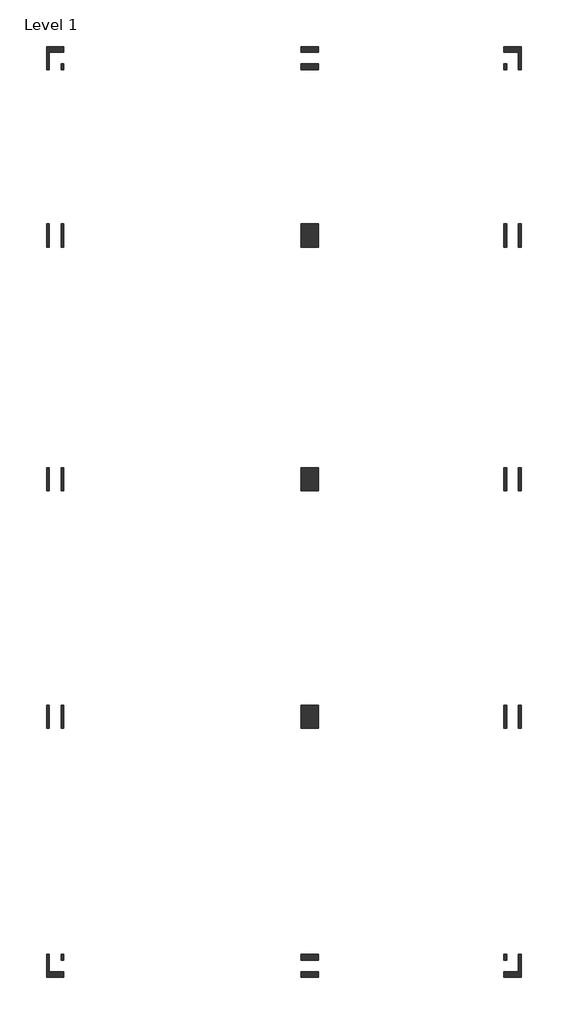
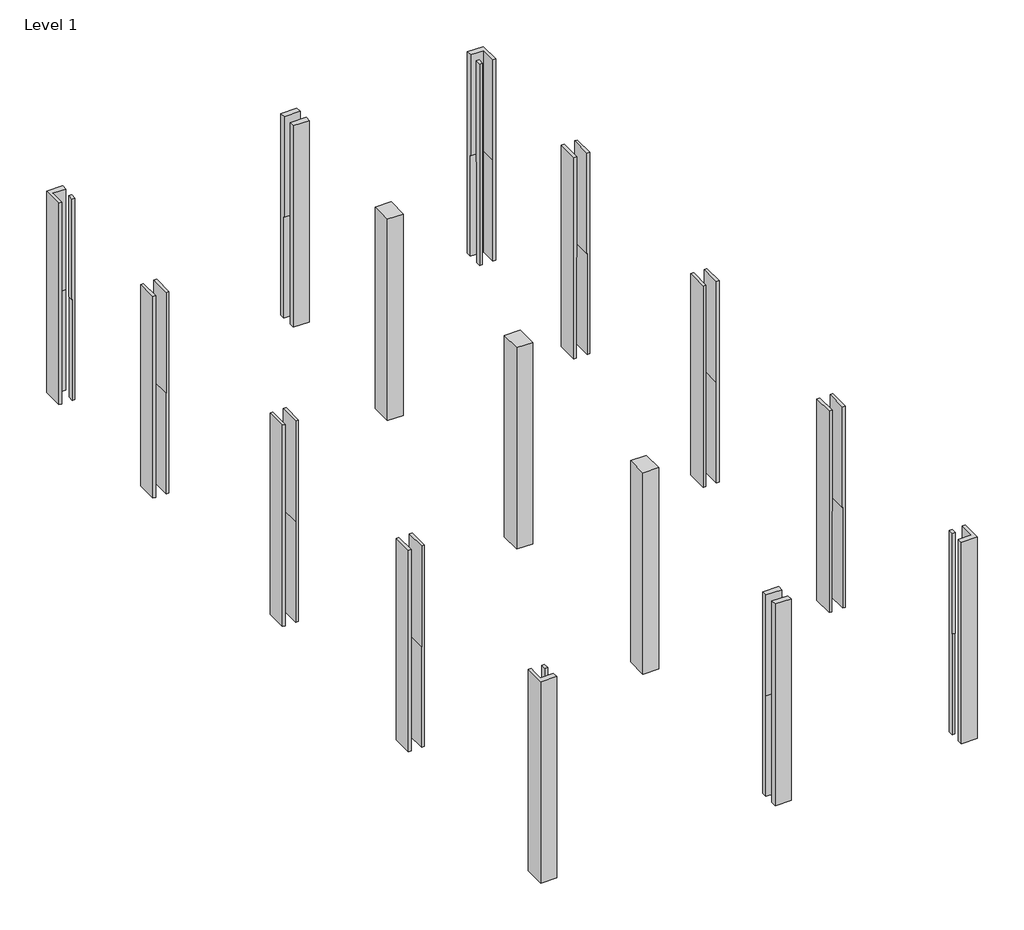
# One storey: 15 columns.
"""IFC4 building model written with IfcOpenShell, lengths in millimetres."""

import ifcopenshell
import ifcopenshell.guid

model = None  # the IFC model being written
_history = None  # IfcOwnerHistory: only IFC2X3 demands one
_inside = {}  # id of a spatial element -> (the spatial element, [elements in it])
_under = {}  # id of a project, library or spatial element -> (it, [spatial elements below it])
_declared = {}  # id of a project -> (the project, [libraries it declares])
_typed = {}  # id of a type object -> (the type object, [elements of that type])
_made_of = {}  # id of a material, layer set ... -> (it, [elements and type objects made of it])


def new_model(schema):
    """Start an empty IFC model of exactly this schema.

    Asked for "IFC4X3", IfcOpenShell would pick the latest addendum, in which some entities
    have other attributes; the version numbers below select the first issue.
    IFC2X3 requires an IfcOwnerHistory on every rooted entity: one is made here for all.
    """
    global model, _history
    if schema == "IFC4X3":
        model = ifcopenshell.file(schema_version=(4, 3, 0, 0))
    else:
        model = ifcopenshell.file(schema=schema)
    _inside.clear()
    _under.clear()
    _declared.clear()
    _typed.clear()
    _made_of.clear()
    _history = None
    if model.schema == "IFC2X3":
        org = make("IfcOrganization", Name="unknown")
        user = make(
            "IfcPersonAndOrganization",
            ThePerson=make("IfcPerson", FamilyName="unknown"),
            TheOrganization=org,
        )
        app = make(
            "IfcApplication",
            ApplicationDeveloper=org,
            Version="unknown",
            ApplicationFullName="unknown",
            ApplicationIdentifier="unknown",
        )
        _history = make(
            "IfcOwnerHistory",
            OwningUser=user,
            OwningApplication=app,
            ChangeAction="ADDED",
            CreationDate=0,
        )
    return model


def make(cls, **values):
    """One entity of the class cls with the attributes given. An attribute that is None is left unset."""
    return model.create_entity(
        cls, **{name: value for name, value in values.items() if value is not None}
    )


def rooted(cls, **values):
    """An entity with a GlobalId (a new one), such as an element, a storey or a relation."""
    return make(cls, GlobalId=ifcopenshell.guid.new(), OwnerHistory=_history, **values)


def si_unit(unit_type, name, prefix=None):
    """IfcSIUnit, for example si_unit("LENGTHUNIT", "METRE", prefix="MILLI")."""
    return make("IfcSIUnit", UnitType=unit_type, Prefix=prefix, Name=name)


def assignment(units):
    """IfcUnitAssignment: the units of a project."""
    return None if units is None else make("IfcUnitAssignment", Units=units)


def point(xyz):
    """IfcCartesianPoint."""
    return None if xyz is None else make("IfcCartesianPoint", Coordinates=xyz)


def direction(xyz):
    """IfcDirection."""
    return None if xyz is None else make("IfcDirection", DirectionRatios=xyz)


def frame(location, z_axis=None, x_axis=None):
    """IfcAxis2Placement3D, a coordinate frame: its origin and axes. An axis left out is left unset."""
    return make(
        "IfcAxis2Placement3D",
        Location=point(location),
        Axis=direction(z_axis),
        RefDirection=direction(x_axis),
    )


def origin():
    """The frame at (0, 0, 0) with its axes left unset."""
    return frame((0.0, 0.0, 0.0))


def origin_with_axes():
    """The frame at (0, 0, 0) with the z axis (0, 0, 1) and the x axis (1, 0, 0) written out."""
    return frame((0.0, 0.0, 0.0), z_axis=(0.0, 0.0, 1.0), x_axis=(1.0, 0.0, 0.0))


def place(relative_to, where):
    """IfcLocalPlacement: puts the frame where relative to a parent placement (None: the world)."""
    return make(
        "IfcLocalPlacement", PlacementRelTo=relative_to, RelativePlacement=where
    )


def context(
    kind, dimensions, precision=None, world=None, true_north=None, identifier=None
):
    """IfcGeometricRepresentationContext, for example the 3D "Model" context."""
    return make(
        "IfcGeometricRepresentationContext",
        ContextIdentifier=identifier,
        ContextType=kind,
        CoordinateSpaceDimension=dimensions,
        Precision=precision,
        WorldCoordinateSystem=world,
        TrueNorth=true_north,
    )


def project(units=None, contexts=None):
    """IfcProject with its units and contexts."""
    return rooted(
        "IfcProject",
        Name="project",
        RepresentationContexts=contexts,
        UnitsInContext=assignment(units),
    )


def spatial(cls, under=None, at=None, **own):
    """A site, building, storey or space (cls), placed at a placement, below another one or the project."""
    s = rooted(cls, ObjectPlacement=at, **own)
    if under is not None:
        _under.setdefault(under.id(), (under, []))[1].append(s)
    return s


def polyline(points):
    """IfcPolyline through the points."""
    return make("IfcPolyline", Points=[point(p) for p in points])


def outline(outer, holes=None, kind="AREA"):
    """IfcArbitraryClosedProfileDef: a profile drawn as a closed curve; with holes, ...WithVoids."""
    if holes is None:
        return make("IfcArbitraryClosedProfileDef", ProfileType=kind, OuterCurve=outer)
    return make(
        "IfcArbitraryProfileDefWithVoids",
        ProfileType=kind,
        OuterCurve=outer,
        InnerCurves=holes,
    )


def extrude(swept, where, along, depth):
    """IfcExtrudedAreaSolid: the profile swept, set in the frame where, extruded along a direction by depth."""
    return make(
        "IfcExtrudedAreaSolid",
        SweptArea=swept,
        Position=where,
        ExtrudedDirection=direction(along),
        Depth=depth,
    )


def faces_of(points, faces, orient=None, outer=None):
    """IfcFace entities. A face is a list of loops; a loop is a list of indices into points, from 0.

    orient and outer hold one flag for each loop. By default every Orientation is true, the
    first loop of a face is its IfcFaceOuterBound and the others are IfcFaceBound.
    """
    made = []
    for i, loops in enumerate(faces):
        bounds = []
        for j, loop in enumerate(loops):
            is_outer = j == 0 if outer is None else outer[i][j]
            bounds.append(
                make(
                    "IfcFaceOuterBound" if is_outer else "IfcFaceBound",
                    Bound=make("IfcPolyLoop", Polygon=[points[k] for k in loop]),
                    Orientation=True if orient is None else orient[i][j],
                )
            )
        made.append(make("IfcFace", Bounds=bounds))
    return made


def faceted_brep(points, faces, orient=None, outer=None, voids=None):
    """IfcFacetedBrep: a solid bounded by flat faces; with voids (closed shells), ...WithVoids."""
    shared = [point(p) for p in points]
    hull = make("IfcClosedShell", CfsFaces=faces_of(shared, faces, orient, outer))
    if voids is None:
        return make("IfcFacetedBrep", Outer=hull)
    return make(
        "IfcFacetedBrepWithVoids",
        Outer=hull,
        Voids=[
            make(cls, CfsFaces=faces_of(shared, fs, o, b)) for cls, fs, o, b in voids
        ],
    )


def shape(context_of_items, identifier, shape_type, items):
    """IfcShapeRepresentation: the items that make up one representation, for example the "Body"."""
    return make(
        "IfcShapeRepresentation",
        ContextOfItems=context_of_items,
        RepresentationIdentifier=identifier,
        RepresentationType=shape_type,
        Items=items,
    )


def source(mapping_origin, context_of_items, identifier, shape_type, items):
    """IfcRepresentationMap: a shape defined once, which mapped items show again and again."""
    return make(
        "IfcRepresentationMap",
        MappingOrigin=mapping_origin,
        MappedRepresentation=shape(context_of_items, identifier, shape_type, items),
    )


def transform(
    local_origin,
    x_axis=None,
    y_axis=None,
    z_axis=None,
    scale=None,
    scale2=None,
    scale3=None,
    uniform=True,
):
    """IfcCartesianTransformationOperator3D, or its non-uniform kind. x_axis, y_axis, z_axis: its Axis1, 2, 3."""
    if uniform:
        return make(
            "IfcCartesianTransformationOperator3D",
            Axis1=direction(x_axis),
            Axis2=direction(y_axis),
            LocalOrigin=point(local_origin),
            Scale=scale,
            Axis3=direction(z_axis),
        )
    return make(
        "IfcCartesianTransformationOperator3DnonUniform",
        Axis1=direction(x_axis),
        Axis2=direction(y_axis),
        LocalOrigin=point(local_origin),
        Scale=scale,
        Axis3=direction(z_axis),
        Scale2=scale2,
        Scale3=scale3,
    )


def mapped(mapping_source, mapping_target):
    """IfcMappedItem: shows the shape of a source again, moved by a transform."""
    return make(
        "IfcMappedItem", MappingSource=mapping_source, MappingTarget=mapping_target
    )


def made_of(thing, what):
    """Note that an element or type object is made of a material, layer set ...; save() writes the relation."""
    if what is not None:
        _made_of.setdefault(what.id(), (what, []))[1].append(thing)
    return thing


def element(
    cls,
    number,
    at=None,
    inside=None,
    cuts=None,
    type_object=None,
    material=None,
    context=None,
    identifier="Body",
    shape_type=None,
    held_by="IfcProductDefinitionShape",
    body=None,
    shapes=None,
    **own,
):
    """One element of the class cls, such as IfcWall. Its Tag is "e" and its number.

    at: its placement. inside: the storey or other place that contains it. cuts: it is an
    opening in that element (IfcRelVoidsElement). A single representation is given by context,
    identifier, shape_type and body (its items); several are given by shapes. held_by: the class
    of the entity that holds the representations. save() writes the other relations.
    """
    e = rooted(cls, Tag="e%d" % number, ObjectPlacement=at, **own)
    if body is not None:
        shapes = [shape(context, identifier, shape_type, body)]
    if shapes is not None:
        e.Representation = make(held_by, Representations=shapes)
    if inside is not None:
        _inside.setdefault(inside.id(), (inside, []))[1].append(e)
    if cuts is not None:
        rooted(
            "IfcRelVoidsElement", RelatingBuildingElement=cuts, RelatedOpeningElement=e
        )
    if type_object is not None:
        _typed.setdefault(type_object.id(), (type_object, []))[1].append(e)
    return made_of(e, material)


def aggregate(whole, parts):
    """IfcRelAggregates: a whole, such as a stair, and the parts it consists of."""
    return rooted("IfcRelAggregates", RelatingObject=whole, RelatedObjects=parts)


def save(model, path):
    """Write the relations noted so far, then the file.

    IfcRelAggregates (storeys below a building ...), IfcRelContainedInSpatialStructure (elements
    in a storey), IfcRelDefinesByType, IfcRelAssociatesMaterial and IfcRelDeclares: one each for
    every whole, place, type object, material and project.
    """
    for whole, parts in _under.values():
        aggregate(whole, parts)
    for where, things in _inside.values():
        rooted(
            "IfcRelContainedInSpatialStructure",
            RelatedElements=things,
            RelatingStructure=where,
        )
    for kind, things in _typed.values():
        rooted("IfcRelDefinesByType", RelatedObjects=things, RelatingType=kind)
    for what, things in _made_of.values():
        rooted("IfcRelAssociatesMaterial", RelatedObjects=things, RelatingMaterial=what)
    for by, libraries in _declared.values():
        rooted("IfcRelDeclares", RelatingContext=by, RelatedDefinitions=libraries)
    model.write(path)


def concrete_rectangular_column_18_x_24_9683aa1b(model_context):
    return source(origin(), model_context, "Body", "SweptSolid", [
        extrude(outline(polyline([(228.6, 304.8), (228.6, -304.8), (-228.6, -304.8), (-228.6, 304.8), (228.6, 304.8)])), origin_with_axes(), (0.0, 0.0, 1.0), 6096.0),
    ])


model = new_model("IFC4")

# Units and contexts
model_context = context("Model", 3, world=origin())
ifc_project = project(units=[si_unit("LENGTHUNIT", "METRE", prefix="MILLI")], contexts=[model_context])

# Site, building, storey
site = spatial("IfcSite", under=ifc_project)
building = spatial("IfcBuilding", under=site)
storey = spatial("IfcBuildingStorey", under=building, Name="Level 1", Elevation=0.0)

# Columns
placement = place(None, origin())
element("IfcColumn", 1, ObjectType="Concrete-Rectangular-Column : 18 x 24", at=placement, inside=storey, context=model_context, shape_type="SweptSolid", body=[
    extrude(outline(polyline([(6096.0, -18073.5320279), (0.0, -18073.5320279), (0.0, -17997.3320279), (3048.0, -17997.3320279), (3048.0, -17992.5695279), (6096.0, -17992.5695279), (6096.0, -18073.5320279)])), frame((0.0, 13628.2725599, 0.0), z_axis=(0.0, 1.0, 0.0), x_axis=(0.0, 0.0, 1.0)), (0.0, 0.0, 1.0), 609.6),
    extrude(outline(polyline([(0.0, -17616.3320279), (6096.0, -17616.3320279), (6096.0, -17697.2945279), (3048.0, -17697.2945279), (3048.0, -17692.5320279), (0.0, -17692.5320279), (0.0, -17616.3320279)])), frame((0.0, 13628.2725599, 0.0), z_axis=(0.0, 1.0, 0.0), x_axis=(0.0, 0.0, 1.0)), (0.0, 0.0, 1.0), 609.6),
])
element("IfcColumn", 2, ObjectType="Concrete-Rectangular-Column : 18 x 24", at=placement, inside=storey, context=model_context, shape_type="SweptSolid", body=[
    extrude(outline(polyline([(6096.0, -18073.5320279), (0.0, -18073.5320279), (0.0, -17997.3320279), (3048.0, -17997.3320279), (3048.0, -17992.5695279), (6096.0, -17992.5695279), (6096.0, -18073.5320279)])), frame((0.0, 7215.1748292, 0.0), z_axis=(0.0, 1.0, 0.0), x_axis=(0.0, 0.0, 1.0)), (0.0, 0.0, 1.0), 609.6),
    extrude(outline(polyline([(0.0, -17616.3320279), (6096.0, -17616.3320279), (6096.0, -17697.2945279), (3048.0, -17697.2945279), (3048.0, -17692.5320279), (0.0, -17692.5320279), (0.0, -17616.3320279)])), frame((0.0, 7215.1748292, 0.0), z_axis=(0.0, 1.0, 0.0), x_axis=(0.0, 0.0, 1.0)), (0.0, 0.0, 1.0), 609.6),
])
element("IfcColumn", 3, ObjectType="Concrete-Rectangular-Column : 18 x 24", at=placement, inside=storey, context=model_context, shape_type="SweptSolid", body=[
    extrude(outline(polyline([(6096.0, -18073.5320279), (0.0, -18073.5320279), (0.0, -17997.3320279), (3048.0, -17997.3320279), (3048.0, -17992.5695279), (6096.0, -17992.5695279), (6096.0, -18073.5320279)])), frame((0.0, 966.7748292, 0.0), z_axis=(0.0, 1.0, 0.0), x_axis=(0.0, 0.0, 1.0)), (0.0, 0.0, 1.0), 609.6),
    extrude(outline(polyline([(0.0, -17616.3320279), (6096.0, -17616.3320279), (6096.0, -17697.2945279), (3048.0, -17697.2945279), (3048.0, -17692.5320279), (0.0, -17692.5320279), (0.0, -17616.3320279)])), frame((0.0, 966.7748292, 0.0), z_axis=(0.0, 1.0, 0.0), x_axis=(0.0, 0.0, 1.0)), (0.0, 0.0, 1.0), 609.6),
])
element("IfcColumn", 4, ObjectType="Concrete-Rectangular-Column : 18 x 24", at=placement, inside=storey, context=model_context, shape_type="Brep", body=[
    faceted_brep([(-17616.3320279, -4976.8251708, 0.0), (-17616.3320279, -5129.2251708, 0.0), (-17692.5320279, -5129.2251708, 0.0), (-17692.5320279, -4976.8251708, 0.0), (-17616.3320279, -5133.9876708, 6096.0), (-17616.3320279, -4976.8251708, 6096.0), (-17697.2945279, -4976.8251708, 6096.0), (-17697.2945279, -5133.9876708, 6096.0), (-17616.3320279, -5129.2251708, 3048.0), (-17692.5320279, -5129.2251708, 3048.0), (-17692.5320279, -4976.8251708, 3048.0), (-17616.3320279, -5133.9876708, 3048.0), (-17697.2945279, -5133.9876708, 3048.0), (-17697.2945279, -4976.8251708, 3048.0)], [[[0, 1, 2, 3]], [[4, 5, 6, 7]], [[1, 8, 9, 2]], [[9, 10, 3, 2]], [[10, 9, 8, 11, 12, 13]], [[11, 4, 7, 12]], [[0, 5, 4, 11, 8, 1]], [[6, 13, 12, 7]], [[5, 0, 3, 10, 13, 6]]]),
    faceted_brep([(-17616.3320279, -5586.4251708, 6096.0), (-17616.3320279, -5586.4251708, 0.0), (-17616.3320279, -5434.0251708, 0.0), (-17616.3320279, -5434.0251708, 3048.0), (-17616.3320279, -5429.2626708, 3048.0), (-17616.3320279, -5429.2626708, 6096.0), (-18073.5320279, -5586.4251708, 0.0), (-18073.5320279, -5586.4251708, 6096.0), (-18073.5320279, -4976.8251708, 0.0), (-18073.5320279, -4976.8251708, 6096.0), (-17992.5695279, -4976.8251708, 6096.0), (-17992.5695279, -4976.8251708, 3048.0), (-17997.3320279, -4976.8251708, 3048.0), (-17997.3320279, -4976.8251708, 0.0), (-17997.3320279, -5434.0251708, 0.0), (-17997.3320279, -5434.0251708, 3048.0), (-17997.3320279, -5129.2251708, 0.0), (-17997.3320279, -5129.2251708, 3048.0), (-17992.5695279, -5429.2626708, 3048.0), (-17992.5695279, -5429.2626708, 6096.0), (-17992.5695279, -5133.9876708, 6096.0), (-17992.5695279, -5133.9876708, 3048.0)], [[[0, 1, 2, 3, 4, 5]], [[6, 1, 0, 7]], [[8, 6, 7, 9]], [[8, 9, 10, 11, 12, 13]], [[14, 15, 3, 2]], [[15, 14, 16, 13, 12, 17]], [[1, 6, 8, 13, 16, 14, 2]], [[4, 18, 19, 5]], [[7, 0, 5, 19, 20, 10, 9]], [[3, 15, 17, 12, 11, 21, 18, 4]], [[19, 18, 21, 11, 10, 20]]]),
])
element("IfcColumn", 5, ObjectType="Concrete-Rectangular-Column : 18 x 24", at=placement, inside=storey, context=model_context, shape_type="Brep", body=[
    faceted_brep([(-18073.5320279, 18292.3436368, 0.0), (-18073.5320279, 18901.9436368, 0.0), (-17616.3320279, 18901.9436368, 0.0), (-17616.3320279, 18749.5436368, 0.0), (-17997.3320279, 18749.5436368, 0.0), (-17997.3320279, 18444.7436368, 0.0), (-17997.3320279, 18292.3436368, 0.0), (-18073.5320279, 18292.3436368, 6096.0), (-17997.3320279, 18292.3436368, 3048.0), (-17992.5695279, 18292.3436368, 3048.0), (-17992.5695279, 18292.3436368, 6096.0), (-18073.5320279, 18901.9436368, 6096.0), (-17616.3320279, 18901.9436368, 6096.0), (-17997.3320279, 18749.5436368, 3048.0), (-17616.3320279, 18749.5436368, 3048.0), (-17997.3320279, 18444.7436368, 3048.0), (-17992.5695279, 18744.7811368, 3048.0), (-17616.3320279, 18744.7811368, 3048.0), (-17616.3320279, 18744.7811368, 6096.0), (-17992.5695279, 18744.7811368, 6096.0), (-17992.5695279, 18449.5061368, 6096.0), (-17992.5695279, 18449.5061368, 3048.0)], [[[0, 1, 2, 3, 4, 5, 6]], [[7, 0, 6, 8, 9, 10]], [[1, 0, 7, 11]], [[2, 1, 11, 12]], [[13, 4, 3, 14]], [[4, 13, 15, 8, 6, 5]], [[16, 17, 18, 19]], [[2, 12, 18, 17, 14, 3]], [[11, 7, 10, 20, 19, 18, 12]], [[13, 14, 17, 16, 21, 9, 8, 15]], [[16, 19, 20, 10, 9, 21]]]),
    faceted_brep([(-17616.3320279, 18292.3436368, 6096.0), (-17616.3320279, 18292.3436368, 0.0), (-17616.3320279, 18444.7436368, 0.0), (-17616.3320279, 18444.7436368, 3048.0), (-17616.3320279, 18449.5061368, 3048.0), (-17616.3320279, 18449.5061368, 6096.0), (-17697.2945279, 18449.5061368, 6096.0), (-17697.2945279, 18292.3436368, 6096.0), (-17692.5320279, 18444.7436368, 0.0), (-17692.5320279, 18444.7436368, 3048.0), (-17692.5320279, 18292.3436368, 3048.0), (-17692.5320279, 18292.3436368, 0.0), (-17697.2945279, 18292.3436368, 3048.0), (-17697.2945279, 18449.5061368, 3048.0)], [[[0, 1, 2, 3, 4, 5]], [[0, 5, 6, 7]], [[3, 2, 8, 9]], [[10, 9, 8, 11]], [[9, 10, 12, 13, 4, 3]], [[2, 1, 11, 8]], [[5, 4, 13, 6]], [[12, 7, 6, 13]], [[1, 0, 7, 12, 10, 11]]]),
])
element("IfcColumn", 6, ObjectType="Concrete-Rectangular-Column : 18 x 24", at=placement, inside=storey, context=model_context, shape_type="SweptSolid", body=[
    extrude(outline(polyline([(6096.0, -6033.9320279), (0.0, -6033.9320279), (0.0, -5957.7320279), (3048.0, -5957.7320279), (3048.0, -5952.9695279), (6096.0, -5952.9695279), (6096.0, -6033.9320279)])), frame((0.0, 13628.2725599, 0.0), z_axis=(0.0, 1.0, 0.0), x_axis=(0.0, 0.0, 1.0)), (0.0, 0.0, 1.0), 609.6),
    extrude(outline(polyline([(0.0, -5576.7320279), (6096.0, -5576.7320279), (6096.0, -5657.6945279), (3048.0, -5657.6945279), (3048.0, -5652.9320279), (0.0, -5652.9320279), (0.0, -5576.7320279)])), frame((0.0, 13628.2725599, 0.0), z_axis=(0.0, 1.0, 0.0), x_axis=(0.0, 0.0, 1.0)), (0.0, 0.0, 1.0), 609.6),
])
element("IfcColumn", 7, ObjectType="Concrete-Rectangular-Column : 18 x 24", at=placement, inside=storey, context=model_context, shape_type="SweptSolid", body=[
    extrude(outline(polyline([(-4976.8251708, 6096.0), (-4976.8251708, 0.0), (-5129.2251708, 0.0), (-5129.2251708, 3048.0), (-5133.9876708, 3048.0), (-5133.9876708, 6096.0), (-4976.8251708, 6096.0)])), frame((-11367.9320279, 0.0, 0.0), z_axis=(1.0, 0.0, 0.0), x_axis=(0.0, 1.0, 0.0)), (0.0, 0.0, 1.0), 457.2),
    extrude(outline(polyline([(-5586.4251708, 0.0), (-5586.4251708, 6096.0), (-5429.2626708, 6096.0), (-5429.2626708, 3048.0), (-5434.0251708, 3048.0), (-5434.0251708, 0.0), (-5586.4251708, 0.0)])), frame((-11367.9320279, 0.0, 0.0), z_axis=(1.0, 0.0, 0.0), x_axis=(0.0, 1.0, 0.0)), (0.0, 0.0, 1.0), 457.2),
])
element("IfcColumn", 8, ObjectType="Concrete-Rectangular-Column : 18 x 24", at=placement, inside=storey, context=model_context, shape_type="SweptSolid", body=[
    extrude(outline(polyline([(18901.9436368, 6096.0), (18901.9436368, 0.0), (18749.5436368, 0.0), (18749.5436368, 3048.0), (18744.7811368, 3048.0), (18744.7811368, 6096.0), (18901.9436368, 6096.0)])), frame((-11367.9320279, 0.0, 0.0), z_axis=(1.0, 0.0, 0.0), x_axis=(0.0, 1.0, 0.0)), (0.0, 0.0, 1.0), 457.2),
    extrude(outline(polyline([(18292.3436368, 0.0), (18292.3436368, 6096.0), (18449.5061368, 6096.0), (18449.5061368, 3048.0), (18444.7436368, 3048.0), (18444.7436368, 0.0), (18292.3436368, 0.0)])), frame((-11367.9320279, 0.0, 0.0), z_axis=(1.0, 0.0, 0.0), x_axis=(0.0, 1.0, 0.0)), (0.0, 0.0, 1.0), 457.2),
])
element("IfcColumn", 9, ObjectType="Concrete-Rectangular-Column : 18 x 24", at=placement, inside=storey, context=model_context, shape_type="SweptSolid", body=[
    extrude(outline(polyline([(6096.0, -6033.9320279), (0.0, -6033.9320279), (0.0, -5957.7320279), (3048.0, -5957.7320279), (3048.0, -5952.9695279), (6096.0, -5952.9695279), (6096.0, -6033.9320279)])), frame((0.0, 7215.1748292, 0.0), z_axis=(0.0, 1.0, 0.0), x_axis=(0.0, 0.0, 1.0)), (0.0, 0.0, 1.0), 609.6),
    extrude(outline(polyline([(0.0, -5576.7320279), (6096.0, -5576.7320279), (6096.0, -5657.6945279), (3048.0, -5657.6945279), (3048.0, -5652.9320279), (0.0, -5652.9320279), (0.0, -5576.7320279)])), frame((0.0, 7215.1748292, 0.0), z_axis=(0.0, 1.0, 0.0), x_axis=(0.0, 0.0, 1.0)), (0.0, 0.0, 1.0), 609.6),
])
element("IfcColumn", 10, ObjectType="Concrete-Rectangular-Column : 18 x 24", at=placement, inside=storey, context=model_context, shape_type="SweptSolid", body=[
    extrude(outline(polyline([(6096.0, -6033.9320279), (0.0, -6033.9320279), (0.0, -5957.7320279), (3048.0, -5957.7320279), (3048.0, -5952.9695279), (6096.0, -5952.9695279), (6096.0, -6033.9320279)])), frame((0.0, 966.7748292, 0.0), z_axis=(0.0, 1.0, 0.0), x_axis=(0.0, 0.0, 1.0)), (0.0, 0.0, 1.0), 609.6),
    extrude(outline(polyline([(0.0, -5576.7320279), (6096.0, -5576.7320279), (6096.0, -5657.6945279), (3048.0, -5657.6945279), (3048.0, -5652.9320279), (0.0, -5652.9320279), (0.0, -5576.7320279)])), frame((0.0, 966.7748292, 0.0), z_axis=(0.0, 1.0, 0.0), x_axis=(0.0, 0.0, 1.0)), (0.0, 0.0, 1.0), 609.6),
])
element("IfcColumn", 11, ObjectType="Concrete-Rectangular-Column : 18 x 24", at=placement, inside=storey, context=model_context, shape_type="Brep", body=[
    faceted_brep([(-6033.9320279, -4976.8251708, 0.0), (-5957.7320279, -4976.8251708, 0.0), (-5957.7320279, -5129.2251708, 0.0), (-6033.9320279, -5129.2251708, 0.0), (-6033.9320279, -4976.8251708, 6096.0), (-6033.9320279, -5129.2251708, 3048.0), (-6033.9320279, -5133.9876708, 3048.0), (-6033.9320279, -5133.9876708, 6096.0), (-5952.9695279, -4976.8251708, 6096.0), (-5952.9695279, -4976.8251708, 3048.0), (-5957.7320279, -4976.8251708, 3048.0), (-5957.7320279, -5129.2251708, 3048.0), (-5952.9695279, -5133.9876708, 3048.0), (-5952.9695279, -5133.9876708, 6096.0)], [[[0, 1, 2, 3]], [[4, 0, 3, 5, 6, 7]], [[0, 4, 8, 9, 10, 1]], [[1, 10, 11, 2]], [[11, 5, 3, 2]], [[5, 11, 10, 9, 12, 6]], [[7, 6, 12, 13]], [[9, 8, 13, 12]], [[4, 7, 13, 8]]]),
    faceted_brep([(-5576.7320279, -5586.4251708, 0.0), (-5576.7320279, -4976.8251708, 0.0), (-5576.7320279, -4976.8251708, 6096.0), (-5576.7320279, -5586.4251708, 6096.0), (-6033.9320279, -5586.4251708, 0.0), (-6033.9320279, -5586.4251708, 6096.0), (-5657.6945279, -4976.8251708, 6096.0), (-5657.6945279, -5133.9876708, 6096.0), (-5657.6945279, -5429.2626708, 6096.0), (-6033.9320279, -5429.2626708, 6096.0), (-5652.9320279, -5434.0251708, 0.0), (-5652.9320279, -5434.0251708, 3048.0), (-5652.9320279, -4976.8251708, 3048.0), (-5652.9320279, -4976.8251708, 0.0), (-5957.7320279, -5434.0251708, 0.0), (-6033.9320279, -5434.0251708, 0.0), (-6033.9320279, -5434.0251708, 3048.0), (-5957.7320279, -5434.0251708, 3048.0), (-5657.6945279, -5429.2626708, 3048.0), (-6033.9320279, -5429.2626708, 3048.0), (-5657.6945279, -4976.8251708, 3048.0), (-5657.6945279, -5133.9876708, 3048.0)], [[[0, 1, 2, 3]], [[4, 0, 3, 5]], [[3, 2, 6, 7, 8, 9, 5]], [[10, 11, 12, 13]], [[11, 10, 14, 15, 16, 17]], [[1, 0, 4, 15, 14, 10, 13]], [[18, 19, 9, 8]], [[4, 5, 9, 19, 16, 15]], [[2, 1, 13, 12, 20, 6]], [[12, 11, 17, 16, 19, 18, 21, 20]], [[18, 8, 7, 6, 20, 21]]]),
])
element("IfcColumn", 12, ObjectType="Concrete-Rectangular-Column : 18 x 24", at=placement, inside=storey, context=model_context, shape_type="Brep", body=[
    faceted_brep([(-6033.9320279, 18292.3436368, 0.0), (-6033.9320279, 18444.7436368, 0.0), (-5957.7320279, 18444.7436368, 0.0), (-5957.7320279, 18292.3436368, 0.0), (-6033.9320279, 18292.3436368, 6096.0), (-5957.7320279, 18292.3436368, 3048.0), (-5952.9695279, 18292.3436368, 3048.0), (-5952.9695279, 18292.3436368, 6096.0), (-6033.9320279, 18444.7436368, 3048.0), (-5957.7320279, 18444.7436368, 3048.0), (-6033.9320279, 18449.5061368, 3048.0), (-5952.9695279, 18449.5061368, 3048.0), (-6033.9320279, 18449.5061368, 6096.0), (-5952.9695279, 18449.5061368, 6096.0)], [[[0, 1, 2, 3]], [[4, 0, 3, 5, 6, 7]], [[1, 8, 9, 2]], [[9, 5, 3, 2]], [[5, 9, 8, 10, 11, 6]], [[10, 12, 13, 11]], [[0, 4, 12, 10, 8, 1]], [[7, 6, 11, 13]], [[12, 4, 7, 13]]]),
    faceted_brep([(-5576.7320279, 18292.3436368, 0.0), (-5576.7320279, 18901.9436368, 0.0), (-5576.7320279, 18901.9436368, 6096.0), (-5576.7320279, 18292.3436368, 6096.0), (-6033.9320279, 18901.9436368, 6096.0), (-6033.9320279, 18901.9436368, 0.0), (-6033.9320279, 18749.5436368, 0.0), (-6033.9320279, 18749.5436368, 3048.0), (-6033.9320279, 18744.7811368, 3048.0), (-6033.9320279, 18744.7811368, 6096.0), (-5657.6945279, 18744.7811368, 6096.0), (-5657.6945279, 18449.5061368, 6096.0), (-5657.6945279, 18292.3436368, 6096.0), (-5652.9320279, 18749.5436368, 0.0), (-5652.9320279, 18749.5436368, 3048.0), (-5652.9320279, 18444.7436368, 0.0), (-5652.9320279, 18292.3436368, 0.0), (-5652.9320279, 18292.3436368, 3048.0), (-5652.9320279, 18444.7436368, 3048.0), (-5657.6945279, 18744.7811368, 3048.0), (-5657.6945279, 18292.3436368, 3048.0), (-5657.6945279, 18449.5061368, 3048.0)], [[[0, 1, 2, 3]], [[4, 5, 6, 7, 8, 9]], [[1, 5, 4, 2]], [[3, 2, 4, 9, 10, 11, 12]], [[13, 14, 7, 6]], [[14, 13, 15, 16, 17, 18]], [[1, 0, 16, 15, 13, 6, 5]], [[8, 19, 10, 9]], [[0, 3, 12, 20, 17, 16]], [[7, 14, 18, 17, 20, 21, 19, 8]], [[10, 19, 21, 20, 12, 11]]]),
])
concrete_rectangular_column_18_x_24_shape = concrete_rectangular_column_18_x_24_9683aa1b(model_context)
element("IfcColumn", 13, ObjectType="Concrete-Rectangular-Column : 18 x 24", at=placement, inside=storey, context=model_context, shape_type="MappedRepresentation", body=[
    mapped(concrete_rectangular_column_18_x_24_shape, transform((-11139.3320279, 13933.0725599, 0.0), x_axis=(1.0, 0.0, 0.0), y_axis=(0.0, 1.0, 0.0), z_axis=(0.0, 0.0, 1.0))),
])
element("IfcColumn", 14, ObjectType="Concrete-Rectangular-Column : 18 x 24", at=placement, inside=storey, context=model_context, shape_type="MappedRepresentation", body=[
    mapped(concrete_rectangular_column_18_x_24_shape, transform((-11139.3320279, 7519.9748292, 0.0), x_axis=(1.0, 0.0, 0.0), y_axis=(0.0, 1.0, 0.0), z_axis=(0.0, 0.0, 1.0))),
])
element("IfcColumn", 15, ObjectType="Concrete-Rectangular-Column : 18 x 24", at=placement, inside=storey, context=model_context, shape_type="MappedRepresentation", body=[
    mapped(concrete_rectangular_column_18_x_24_shape, transform((-11139.3320279, 1271.5748292, 0.0), x_axis=(1.0, 0.0, 0.0), y_axis=(0.0, 1.0, 0.0), z_axis=(0.0, 0.0, 1.0))),
])

save(model, "model.ifc")
